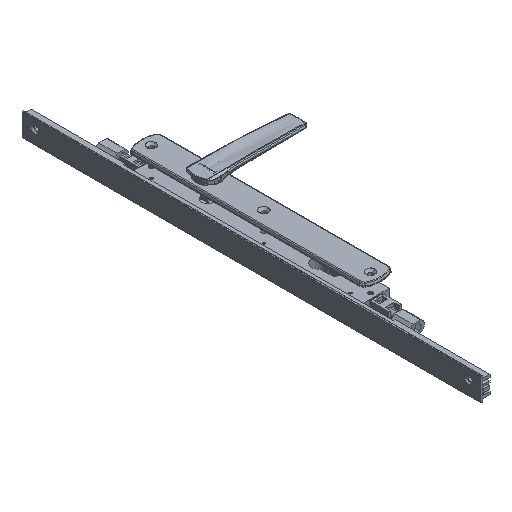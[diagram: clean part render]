
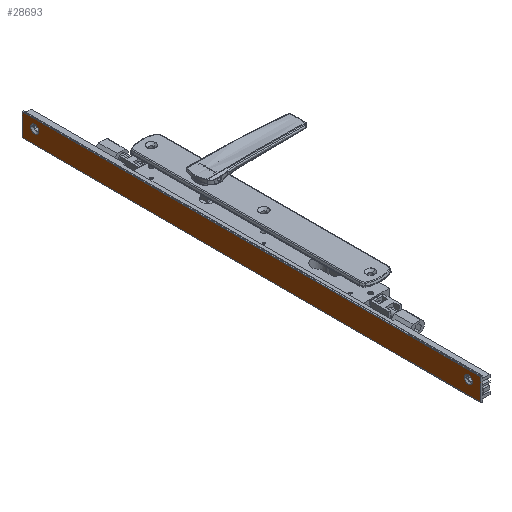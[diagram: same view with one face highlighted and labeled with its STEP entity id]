
A CAD part, isometric view. The second image highlights one B-rep face of the part: STEP entity #28693.
In plain terms, the highlighted planar face has unit normal (-1, 0, 0) as drawn and (0, 1, 0) by its records, which use the part's own axes.
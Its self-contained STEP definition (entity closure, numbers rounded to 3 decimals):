
#804 = CARTESIAN_POINT ( 'NONE',  ( 20.8, 12.4, 0. ) ) ;
#1389 = DIRECTION ( 'NONE',  ( 0., 0., 1. ) ) ;
#2063 = FACE_OUTER_BOUND ( 'NONE', #17288, .T. ) ;
#2940 = AXIS2_PLACEMENT_3D ( 'NONE', #25664, #30908, #17987 ) ;
#2963 = DIRECTION ( 'NONE',  ( 0., 1., 0. ) ) ;
#3618 = VERTEX_POINT ( 'NONE', #14180 ) ;
#4028 = VERTEX_POINT ( 'NONE', #28514 ) ;
#4285 = CARTESIAN_POINT ( 'NONE',  ( 11.8, 12.4, 19.89 ) ) ;
#5519 = DIRECTION ( 'NONE',  ( 0., 1., 0. ) ) ;
#5563 = DIRECTION ( 'NONE',  ( 0., 1., 0. ) ) ;
#5582 = DIRECTION ( 'NONE',  ( 0., 0., 1. ) ) ;
#6044 = CARTESIAN_POINT ( 'NONE',  ( -4.4, 12.4, 0. ) ) ;
#6114 = CARTESIAN_POINT ( 'NONE',  ( 22., 12.4, 0. ) ) ;
#6544 = CARTESIAN_POINT ( 'NONE',  ( -4.4, 12.4, 0. ) ) ;
#7008 = CARTESIAN_POINT ( 'NONE',  ( 11.8, 12.4, 524.111 ) ) ;
#7070 = CARTESIAN_POINT ( 'NONE',  ( 20.8, 12.4, 544. ) ) ;
#7454 = CARTESIAN_POINT ( 'NONE',  ( 20.8, 12.4, 544. ) ) ;
#7981 = EDGE_LOOP ( 'NONE', ( #23759, #21845 ) ) ;
#7985 = CARTESIAN_POINT ( 'NONE',  ( 11.8, 12.4, 15. ) ) ;
#8021 = EDGE_CURVE ( 'NONE', #3618, #23391, #28714, .T. ) ;
#8626 = CIRCLE ( 'NONE', #2940, 4.889 ) ;
#9479 = DIRECTION ( 'NONE',  ( -1., 0., 0. ) ) ;
#9529 = DIRECTION ( 'NONE',  ( 1., 0., 0. ) ) ;
#9810 = CIRCLE ( 'NONE', #27989, 4.89 ) ;
#10065 = EDGE_CURVE ( 'NONE', #16513, #4028, #8626, .T. ) ;
#10108 = DIRECTION ( 'NONE',  ( 0., 0., 1. ) ) ;
#10776 = CIRCLE ( 'NONE', #28970, 4.89 ) ;
#10837 = DIRECTION ( 'NONE',  ( 0., 0., 1. ) ) ;
#10866 = ORIENTED_EDGE ( 'NONE', *, *, #16696, .T. ) ;
#11212 = DIRECTION ( 'NONE',  ( 0., 0., 1. ) ) ;
#12012 = ORIENTED_EDGE ( 'NONE', *, *, #10065, .F. ) ;
#12518 = VECTOR ( 'NONE', #9479, 1000. ) ;
#12746 = EDGE_CURVE ( 'NONE', #4028, #16513, #26864, .T. ) ;
#13092 = AXIS2_PLACEMENT_3D ( 'NONE', #7454, #24962, #9529 ) ;
#13473 = LINE ( 'NONE', #6044, #25167 ) ;
#13648 = VERTEX_POINT ( 'NONE', #29144 ) ;
#13695 = ORIENTED_EDGE ( 'NONE', *, *, #27432, .F. ) ;
#14180 = CARTESIAN_POINT ( 'NONE',  ( 22., 12.4, 0. ) ) ;
#14705 = VERTEX_POINT ( 'NONE', #6544 ) ;
#14711 = FACE_BOUND ( 'NONE', #7981, .T. ) ;
#14871 = PLANE ( 'NONE',  #13092 ) ;
#14903 = EDGE_CURVE ( 'NONE', #21963, #22300, #9810, .T. ) ;
#15028 = FACE_BOUND ( 'NONE', #15507, .T. ) ;
#15507 = EDGE_LOOP ( 'NONE', ( #16401, #12012 ) ) ;
#15527 = CARTESIAN_POINT ( 'NONE',  ( 11.8, 12.4, 15. ) ) ;
#16401 = ORIENTED_EDGE ( 'NONE', *, *, #12746, .F. ) ;
#16513 = VERTEX_POINT ( 'NONE', #7008 ) ;
#16696 = EDGE_CURVE ( 'NONE', #3618, #14705, #30270, .T. ) ;
#17288 = EDGE_LOOP ( 'NONE', ( #10866, #21313, #13695, #21479 ) ) ;
#17987 = DIRECTION ( 'NONE',  ( 0., 0., 1. ) ) ;
#21313 = ORIENTED_EDGE ( 'NONE', *, *, #31727, .T. ) ;
#21318 = EDGE_CURVE ( 'NONE', #22300, #21963, #10776, .T. ) ;
#21377 = VECTOR ( 'NONE', #23040, 1000. ) ;
#21479 = ORIENTED_EDGE ( 'NONE', *, *, #8021, .F. ) ;
#21845 = ORIENTED_EDGE ( 'NONE', *, *, #21318, .F. ) ;
#21963 = VERTEX_POINT ( 'NONE', #4285 ) ;
#22300 = VERTEX_POINT ( 'NONE', #27860 ) ;
#23040 = DIRECTION ( 'NONE',  ( -1., 0., 0. ) ) ;
#23391 = VERTEX_POINT ( 'NONE', #31129 ) ;
#23759 = ORIENTED_EDGE ( 'NONE', *, *, #14903, .F. ) ;
#24581 = VECTOR ( 'NONE', #1389, 1000. ) ;
#24962 = DIRECTION ( 'NONE',  ( 0., -1., 0. ) ) ;
#25167 = VECTOR ( 'NONE', #11212, 1000. ) ;
#25226 = CARTESIAN_POINT ( 'NONE',  ( 11.8, 12.4, 529. ) ) ;
#25664 = CARTESIAN_POINT ( 'NONE',  ( 11.8, 12.4, 529. ) ) ;
#26348 = AXIS2_PLACEMENT_3D ( 'NONE', #25226, #2963, #5582 ) ;
#26864 = CIRCLE ( 'NONE', #26348, 4.889 ) ;
#27432 = EDGE_CURVE ( 'NONE', #23391, #13648, #31157, .T. ) ;
#27860 = CARTESIAN_POINT ( 'NONE',  ( 11.8, 12.4, 10.111 ) ) ;
#27989 = AXIS2_PLACEMENT_3D ( 'NONE', #7985, #5563, #10108 ) ;
#28514 = CARTESIAN_POINT ( 'NONE',  ( 11.8, 12.4, 533.889 ) ) ;
#28693 = ADVANCED_FACE ( 'NONE', ( #14711, #15028, #2063 ), #14871, .F. ) ;
#28714 = LINE ( 'NONE', #6114, #24581 ) ;
#28970 = AXIS2_PLACEMENT_3D ( 'NONE', #15527, #5519, #10837 ) ;
#29144 = CARTESIAN_POINT ( 'NONE',  ( -4.4, 12.4, 544. ) ) ;
#30270 = LINE ( 'NONE', #804, #21377 ) ;
#30908 = DIRECTION ( 'NONE',  ( 0., 1., 0. ) ) ;
#31129 = CARTESIAN_POINT ( 'NONE',  ( 22., 12.4, 544. ) ) ;
#31157 = LINE ( 'NONE', #7070, #12518 ) ;
#31727 = EDGE_CURVE ( 'NONE', #14705, #13648, #13473, .T. ) ;
